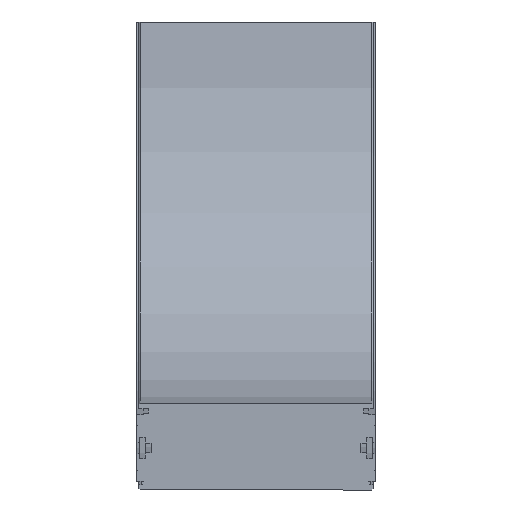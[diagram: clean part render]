
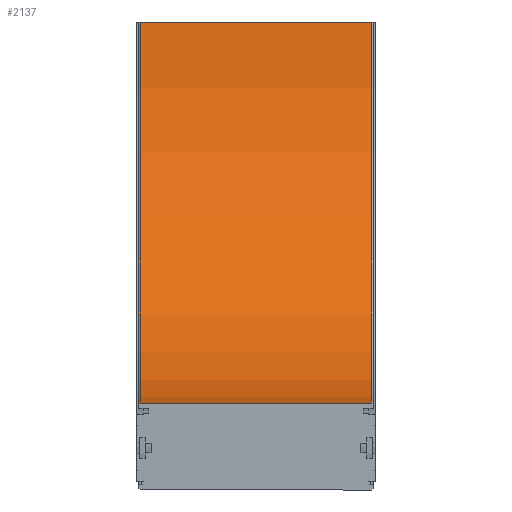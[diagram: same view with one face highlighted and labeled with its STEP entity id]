
A CAD part, front view. The second image highlights one B-rep face of the part: STEP entity #2137.
In plain terms, the highlighted cylindrical face has radius 358 mm (diameter 716 mm), a partial arc.
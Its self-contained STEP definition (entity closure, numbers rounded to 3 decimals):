
#62=CYLINDRICAL_SURFACE('',#2337,358.);
#225=CIRCLE('',#2336,358.);
#226=CIRCLE('',#2338,358.);
#336=FACE_OUTER_BOUND('',#454,.T.);
#454=EDGE_LOOP('',(#1769,#1770,#1771,#1772));
#615=LINE('',#8228,#793);
#616=LINE('',#8230,#794);
#793=VECTOR('',#2838,10.);
#794=VECTOR('',#2839,10.);
#1005=VERTEX_POINT('',#8221);
#1006=VERTEX_POINT('',#8223);
#1007=VERTEX_POINT('',#8227);
#1008=VERTEX_POINT('',#8229);
#1304=EDGE_CURVE('',#1005,#1006,#225,.T.);
#1305=EDGE_CURVE('',#1007,#1005,#615,.T.);
#1306=EDGE_CURVE('',#1008,#1006,#616,.T.);
#1307=EDGE_CURVE('',#1007,#1008,#226,.T.);
#1769=ORIENTED_EDGE('',*,*,#1305,.T.);
#1770=ORIENTED_EDGE('',*,*,#1304,.T.);
#1771=ORIENTED_EDGE('',*,*,#1306,.F.);
#1772=ORIENTED_EDGE('',*,*,#1307,.F.);
#2137=ADVANCED_FACE('',(#336),#62,.F.);
#2336=AXIS2_PLACEMENT_3D('',#8225,#2834,#2835);
#2337=AXIS2_PLACEMENT_3D('',#8226,#2836,#2837);
#2338=AXIS2_PLACEMENT_3D('',#8231,#2840,#2841);
#2834=DIRECTION('center_axis',(1.,0.,0.));
#2835=DIRECTION('ref_axis',(0.,0.,-1.));
#2836=DIRECTION('center_axis',(1.,0.,0.));
#2837=DIRECTION('ref_axis',(0.,0.,-1.));
#2838=DIRECTION('',(1.,0.,0.));
#2839=DIRECTION('',(1.,0.,0.));
#2840=DIRECTION('center_axis',(1.,0.,0.));
#2841=DIRECTION('ref_axis',(0.,0.,
-1.));
#8221=CARTESIAN_POINT('',(108.5,0.,42.));
#8223=CARTESIAN_POINT('',(108.5,358.,400.));
#8225=CARTESIAN_POINT('Origin',(108.5,0.,400.));
#8226=CARTESIAN_POINT('Origin',(-54.25,0.,400.));
#8227=CARTESIAN_POINT('',(-108.5,0.,42.));
#8228=CARTESIAN_POINT('',(-108.5,0.,42.));
#8229=CARTESIAN_POINT('',(-108.5,358.,400.));
#8230=CARTESIAN_POINT('',(-108.5,358.,400.));
#8231=CARTESIAN_POINT('Origin',(-108.5,0.,400.));
